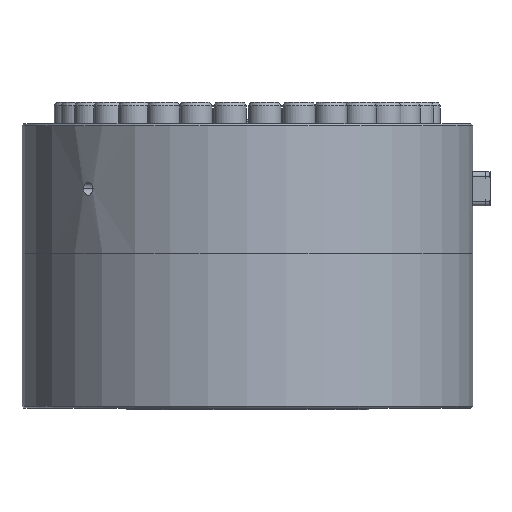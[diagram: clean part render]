
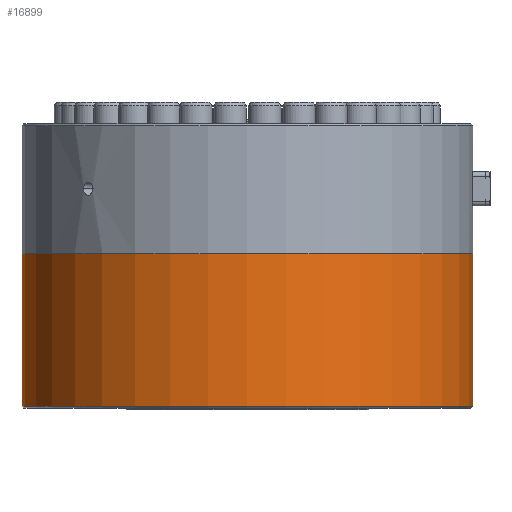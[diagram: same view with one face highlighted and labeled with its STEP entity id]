
A CAD part, front view. The second image highlights one B-rep face of the part: STEP entity #16899.
In plain terms, the highlighted cylindrical face has radius 330.2 mm (diameter 660.4 mm), a partial arc.
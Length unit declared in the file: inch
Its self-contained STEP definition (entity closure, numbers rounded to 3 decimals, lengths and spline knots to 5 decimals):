
#16736 = EDGE_LOOP ( 'NONE', ( #8063, #3782, #16008, #16281 ) ) ;
#16899 = ADVANCED_FACE ( 'NONE', ( #12452 ), #12453, .T. ) ;
#826 = EDGE_CURVE ( 'NONE', #5833, #1918, #17269, .T. ) ;
#17269 = LINE ( 'NONE', #17270, #17271 ) ;
#17270 = CARTESIAN_POINT ( 'NONE',  ( -13., 0., -7.501 ) ) ;
#17271 = VECTOR ( 'NONE', #17272, 39.37008 ) ;
#17272 = DIRECTION ( 'NONE',  ( 0., 0., -1. ) ) ;
#1252 = CARTESIAN_POINT ( 'NONE',  ( -13., 0., -7.501 ) ) ;
#18068 = CARTESIAN_POINT ( 'NONE',  ( -13., 0., -16.3 ) ) ;
#1918 = VERTEX_POINT ( 'NONE', #18068 ) ;
#18538 = EDGE_CURVE ( 'NONE', #3275, #1918, #13856, .T. ) ;
#18705 = CARTESIAN_POINT ( 'NONE',  ( 13., 0., -7.501 ) ) ;
#2727 = VERTEX_POINT ( 'NONE', #18705 ) ;
#19167 = CARTESIAN_POINT ( 'NONE',  ( 13., 0., -16.3 ) ) ;
#3275 = VERTEX_POINT ( 'NONE', #19167 ) ;
#19803 = EDGE_CURVE ( 'NONE', #2727, #5833, #14995, .T. ) ;
#3782 = ORIENTED_EDGE ( 'NONE', *, *, #19803, .T. ) ;
#5833 = VERTEX_POINT ( 'NONE', #1252 ) ;
#8063 = ORIENTED_EDGE ( 'NONE', *, *, #15283, .F. ) ;
#8631 = LINE ( 'NONE', #8632, #8633 ) ;
#8632 = CARTESIAN_POINT ( 'NONE',  ( 13., 0., -7.501 ) ) ;
#8633 = VECTOR ( 'NONE', #8634, 39.37008 ) ;
#8634 = DIRECTION ( 'NONE',  ( 0., 0., -1. ) ) ;
#12452 = FACE_OUTER_BOUND ( 'NONE', #16736, .T. ) ;
#12453 = CYLINDRICAL_SURFACE ( 'NONE', #12454, 13. ) ;
#12454 = AXIS2_PLACEMENT_3D ( 'NONE', #12455, #12456, #12457 ) ;
#12455 = CARTESIAN_POINT ( 'NONE',  ( 0., 0., -7.501 ) ) ;
#12456 = DIRECTION ( 'NONE',  ( 0., 0., -1. ) ) ;
#12457 = DIRECTION ( 'NONE',  ( -1., 0., 0. ) ) ;
#13856 = CIRCLE ( 'NONE', #13857, 13. ) ;
#13857 = AXIS2_PLACEMENT_3D ( 'NONE', #13858, #13860, #13861 ) ;
#13858 = CARTESIAN_POINT ( 'NONE',  ( 0., 0., -16.3 ) ) ;
#13860 = DIRECTION ( 'NONE',  ( 0., 0., -1. ) ) ;
#13861 = DIRECTION ( 'NONE',  ( -1., 0., 0. ) ) ;
#14995 = CIRCLE ( 'NONE', #14996, 13. ) ;
#14996 = AXIS2_PLACEMENT_3D ( 'NONE', #14997, #14998, #14999 ) ;
#14997 = CARTESIAN_POINT ( 'NONE',  ( 0., 0., -7.501 ) ) ;
#14998 = DIRECTION ( 'NONE',  ( 0., 0., -1. ) ) ;
#14999 = DIRECTION ( 'NONE',  ( 0., 1., 0. ) ) ;
#15283 = EDGE_CURVE ( 'NONE', #2727, #3275, #8631, .T. ) ;
#16008 = ORIENTED_EDGE ( 'NONE', *, *, #826, .T. ) ;
#16281 = ORIENTED_EDGE ( 'NONE', *, *, #18538, .F. ) ;
